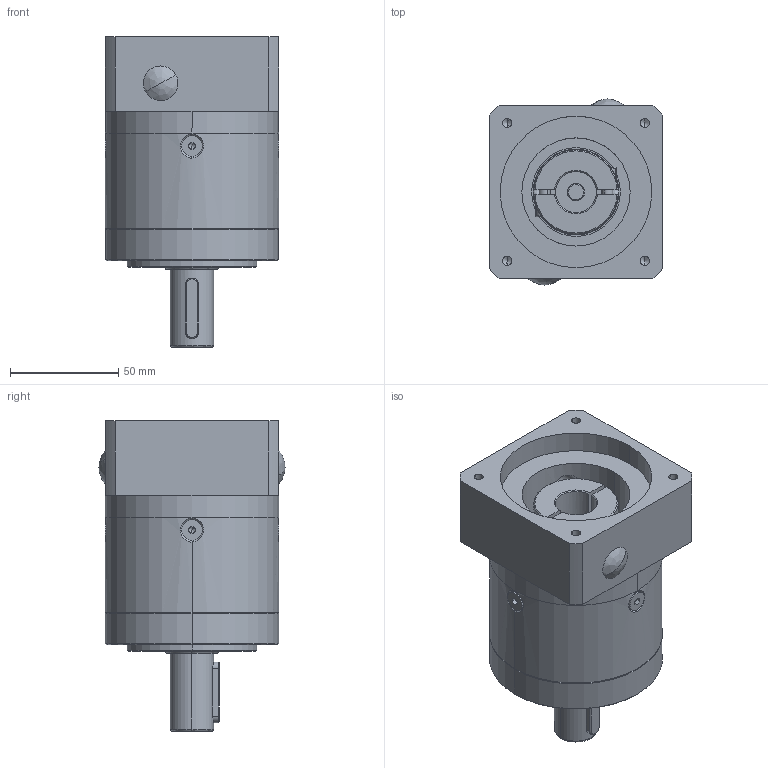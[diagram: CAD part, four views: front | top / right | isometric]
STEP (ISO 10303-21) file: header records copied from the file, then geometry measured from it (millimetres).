
FILE_DESCRIPTION (( 'STEP AP214' ), '1' );
FILE_NAME ('PL80L1-70-19-M5.STEP', '2020-09-12T05:23:06', ( '微软用户' ), ( '微软中国' ), 'SwSTEP 2.0', 'SolidWorks 2014', '' );
FILE_SCHEMA (( 'AUTOMOTIVE_DESIGN' ));
Length unit declared in the file: millimetre
Products named in the file (58): 输入轴; 80俴陎謫I8; 酗种粣10.347; Deep groove ball bearings GB_Rolling bearings 6005 GB 276-94; 小垫片10.4X22.5X0.5; 怀堤粣; Circlips for hole--Type B GB_GB_CONNECTING_PIECE_RINGS_CHB 47; 堤粣傷裔; O型圈; 菜え22X66X0.5; 输入端盖新; 80怮栠謫I8; Plain parallel keys_GB_CONNECTING_PIECE_KEYS_CSK 6X28; Circlips for holes--Type A GB_GB_CONNECTING_PIECE_RING_RRH 47; Hexagon socket countersunk head screws GB_GB_FASTENER_SCREWS_HSCHS M5X12-N; Circlips for shaft--Type B GB_GB_CONNECTING_PIECE_RINGS_CSB 25; 80齿圈; PL80L1-70-19-M5; 黑裔; 幗渀粣創; Hexagon socket head cap screws GB_GB_FASTENER_SCREWS_HSHCS M5X16-N
Assembly tree (37 placements, depth 2):
  输入轴
  酗种粣10.347
  Deep groove ball bearings GB_Rolling bearings 6005 GB 276-94
  怀堤粣
  Circlips for hole--Type B GB_GB_CONNECTING_PIECE_RINGS_CHB 47
Bounding box: 80 x 86 x 143.5 mm (x, y, z)
Volume: 460738.2 mm3; surface area: 167390.2 mm2
Topology: 37 solids, 37 shells, 1089 faces, 3422 edges, 2069 vertices
Faces by surface type: bspline 356, cylinder 353, plane 243, cone 137
Entity records: 26950 total; most frequent: CARTESIAN_POINT 9816, ORIENTED_EDGE 3398, DIRECTION 3108, EDGE_CURVE 1699, AXIS2_PLACEMENT_3D 1295, VERTEX_POINT 1102, CIRCLE 750, EDGE_LOOP 735
